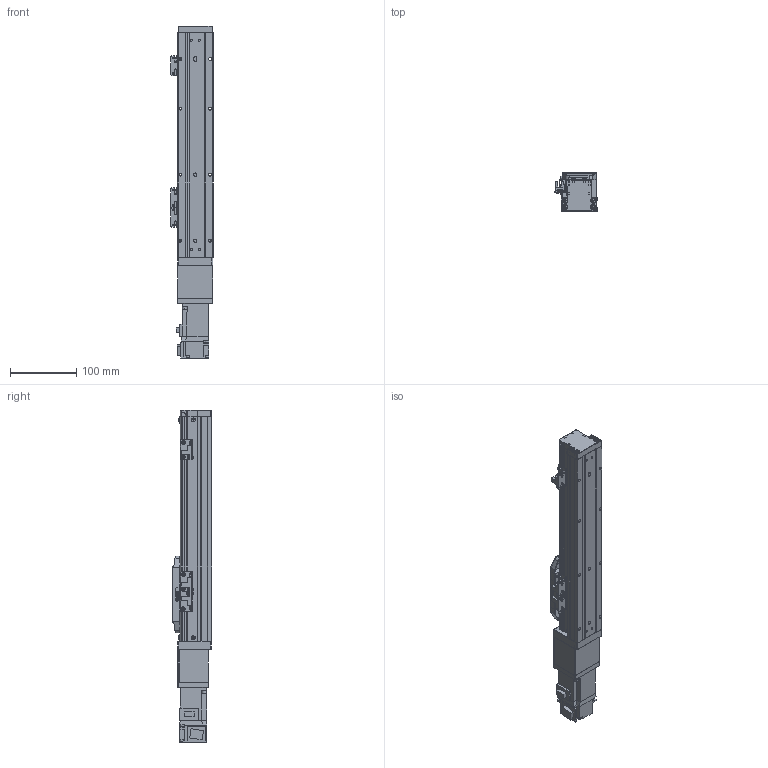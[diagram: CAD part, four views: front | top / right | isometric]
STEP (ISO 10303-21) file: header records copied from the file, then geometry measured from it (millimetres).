
FILE_DESCRIPTION (( 'STEP AP203' ), '1' );
FILE_NAME ('GTH5-200-BC-M10-C4.step', '2022-09-23T00:39:22', ( '微软用户' ), ( '微软中国' ), 'SwSTEP 2.0', 'SolidWorks 2020', '' );
FILE_SCHEMA (( 'CONFIG_CONTROL_DESIGN' ));
Length unit declared in the file: millimetre
Products named in the file (20): GBT 70.1-M2.5×6; GTH5-200-BC-M10-C4; GBT 70.1-M4×16; GTH50-028; GTH50-003; GTH50-022-1; GTH50-006; GTH50-013; GTH50-023; CTHA60-027; GTH50-004; GBT 70.1-M3℅6; CTHA60-013; GBT 70.3-M3℅6; GBT96.1-2002 3×0.8; CTHA60-006-2_CTHA60-006-1; BTH-M3X5X6; GTH50-024; HG-KR13; GTH50-001_200
Assembly tree (60 placements, depth 2):
  GTH5-200-BC-M10-C4
    GTH50-006
    GTH50-004
    GBT 70.3-M3℅6  x6
    BTH-M3X5X6  x8
    GTH50-001_200
    GBT 70.1-M4×16  x8
    GTH50-003
    GTH50-013
    GTH50-023  x3
    GBT 70.1-M3℅6  x12
    GBT96.1-2002 3×0.8  x6
    GTH50-024  x3
    GBT 70.1-M2.5×6  x2
    GTH50-028  x2
    GTH50-022-1
    CTHA60-027
    CTHA60-013
    CTHA60-006-2_CTHA60-006-1
    HG-KR13
Bounding box: 63.8 x 60 x 502.6 mm (x, y, z)
Volume: 1055863.8 mm3; surface area: 199646.3 mm2
Topology: 62 solids, 62 shells, 2037 faces, 4668 edges, 2846 vertices
Faces by surface type: plane 1105, cylinder 531, cone 235, torus 158, sphere 8
Entity records: 33663 total; most frequent: DIRECTION 5423, CARTESIAN_POINT 5319, ORIENTED_EDGE 5022, EDGE_CURVE 2511, AXIS2_PLACEMENT_3D 1856, LINE 1711, VECTOR 1711, VERTEX_POINT 1586
